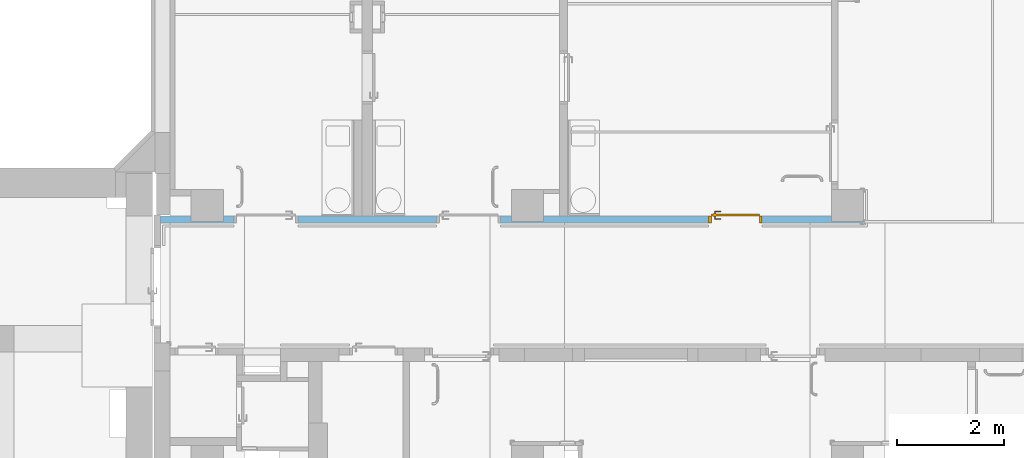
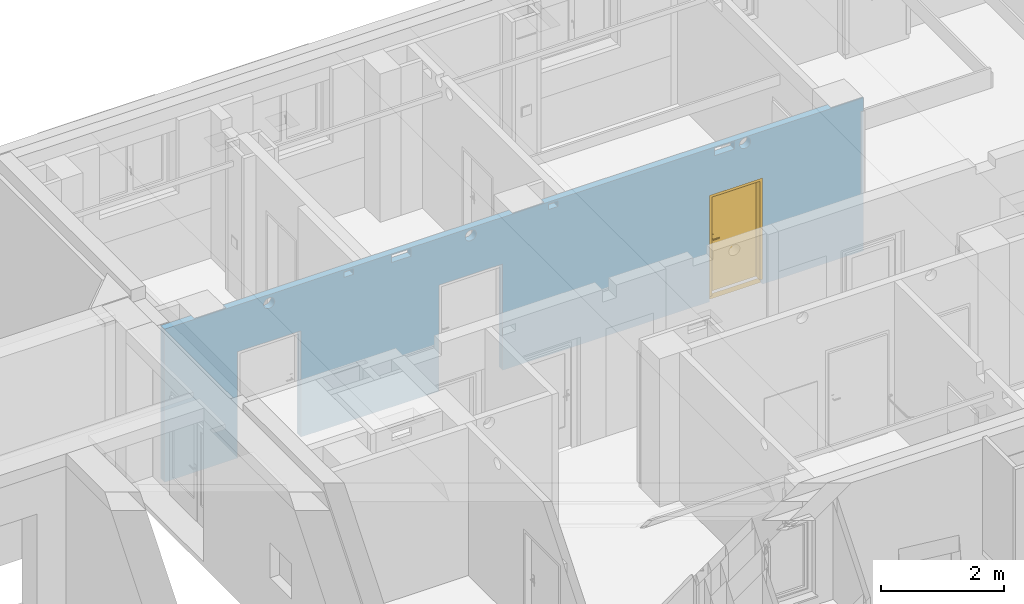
# One storey, part 60 of 84: 1 door, 13 openings, plus 1 element that does not belong to this part.
"""IFC4 building model written with IfcOpenShell, lengths in metres."""

import ifcopenshell
import ifcopenshell.guid

model = None  # the IFC model being written
_history = None  # IfcOwnerHistory: only IFC2X3 demands one
_inside = {}  # id of a spatial element -> (the spatial element, [elements in it])
_under = {}  # id of a project, library or spatial element -> (it, [spatial elements below it])
_declared = {}  # id of a project -> (the project, [libraries it declares])
_typed = {}  # id of a type object -> (the type object, [elements of that type])
_made_of = {}  # id of a material, layer set ... -> (it, [elements and type objects made of it])


def new_model(schema):
    """Start an empty IFC model of exactly this schema.

    Asked for "IFC4X3", IfcOpenShell would pick the latest addendum, in which some entities
    have other attributes; the version numbers below select the first issue.
    IFC2X3 requires an IfcOwnerHistory on every rooted entity: one is made here for all.
    """
    global model, _history
    if schema == "IFC4X3":
        model = ifcopenshell.file(schema_version=(4, 3, 0, 0))
    else:
        model = ifcopenshell.file(schema=schema)
    _inside.clear()
    _under.clear()
    _declared.clear()
    _typed.clear()
    _made_of.clear()
    _history = None
    if model.schema == "IFC2X3":
        org = make("IfcOrganization", Name="unknown")
        user = make(
            "IfcPersonAndOrganization",
            ThePerson=make("IfcPerson", FamilyName="unknown"),
            TheOrganization=org,
        )
        app = make(
            "IfcApplication",
            ApplicationDeveloper=org,
            Version="unknown",
            ApplicationFullName="unknown",
            ApplicationIdentifier="unknown",
        )
        _history = make(
            "IfcOwnerHistory",
            OwningUser=user,
            OwningApplication=app,
            ChangeAction="ADDED",
            CreationDate=0,
        )
    return model


def make(cls, **values):
    """One entity of the class cls with the attributes given. An attribute that is None is left unset."""
    return model.create_entity(
        cls, **{name: value for name, value in values.items() if value is not None}
    )


def entity(cls, *values):
    """Any entity or typed value of the class cls, its attributes in the order of the schema. None: left unset."""
    e = model.create_entity(cls)
    for i, value in enumerate(values):
        if value is not None:
            e[i] = value
    return e


def rooted(cls, **values):
    """An entity with a GlobalId (a new one), such as an element, a storey or a relation."""
    return make(cls, GlobalId=ifcopenshell.guid.new(), OwnerHistory=_history, **values)


def si_unit(unit_type, name, prefix=None):
    """IfcSIUnit, for example si_unit("LENGTHUNIT", "METRE", prefix="MILLI")."""
    return make("IfcSIUnit", UnitType=unit_type, Prefix=prefix, Name=name)


def converted_unit(unit_type, name, factor, base, dimensions=None, offset=None):
    """IfcConversionBasedUnit, such as the inch: factor (a typed value) times the base unit."""
    return make(
        "IfcConversionBasedUnit"
        if offset is None
        else "IfcConversionBasedUnitWithOffset",
        ConversionOffset=offset,
        Dimensions=None
        if dimensions is None
        else entity("IfcDimensionalExponents", *dimensions),
        UnitType=unit_type,
        Name=name,
        ConversionFactor=make(
            "IfcMeasureWithUnit", ValueComponent=factor, UnitComponent=base
        ),
    )


def derived_unit(unit_type, elements):
    """IfcDerivedUnit: a product of units, each with its exponent."""
    return make(
        "IfcDerivedUnit",
        Elements=[
            make("IfcDerivedUnitElement", Unit=unit, Exponent=power)
            for unit, power in elements
        ],
        UnitType=unit_type,
    )


def assignment(units):
    """IfcUnitAssignment: the units of a project."""
    return None if units is None else make("IfcUnitAssignment", Units=units)


def point(xyz):
    """IfcCartesianPoint."""
    return None if xyz is None else make("IfcCartesianPoint", Coordinates=xyz)


def direction(xyz):
    """IfcDirection."""
    return None if xyz is None else make("IfcDirection", DirectionRatios=xyz)


def frame(location, z_axis=None, x_axis=None):
    """IfcAxis2Placement3D, a coordinate frame: its origin and axes. An axis left out is left unset."""
    return make(
        "IfcAxis2Placement3D",
        Location=point(location),
        Axis=direction(z_axis),
        RefDirection=direction(x_axis),
    )


def frame_2d(location, x_axis=None):
    """IfcAxis2Placement2D, a coordinate frame in the plane: its origin and x axis."""
    return make(
        "IfcAxis2Placement2D", Location=point(location), RefDirection=direction(x_axis)
    )


def origin():
    """The frame at (0, 0, 0) with its axes left unset."""
    return frame((0.0, 0.0, 0.0))


def origin_with_axes():
    """The frame at (0, 0, 0) with the z axis (0, 0, 1) and the x axis (1, 0, 0) written out."""
    return frame((0.0, 0.0, 0.0), z_axis=(0.0, 0.0, 1.0), x_axis=(1.0, 0.0, 0.0))


def place(relative_to, where):
    """IfcLocalPlacement: puts the frame where relative to a parent placement (None: the world)."""
    return make(
        "IfcLocalPlacement", PlacementRelTo=relative_to, RelativePlacement=where
    )


def context(
    kind, dimensions, precision=None, world=None, true_north=None, identifier=None
):
    """IfcGeometricRepresentationContext, for example the 3D "Model" context."""
    return make(
        "IfcGeometricRepresentationContext",
        ContextIdentifier=identifier,
        ContextType=kind,
        CoordinateSpaceDimension=dimensions,
        Precision=precision,
        WorldCoordinateSystem=world,
        TrueNorth=true_north,
    )


def subcontext(parent, identifier, kind, view, scale=None):
    """IfcGeometricRepresentationSubContext, for example "Body" below "Model"."""
    return make(
        "IfcGeometricRepresentationSubContext",
        ContextIdentifier=identifier,
        ContextType=kind,
        ParentContext=parent,
        TargetScale=scale,
        TargetView=view,
    )


def project(units=None, contexts=None):
    """IfcProject with its units and contexts."""
    return rooted(
        "IfcProject",
        Name="project",
        RepresentationContexts=contexts,
        UnitsInContext=assignment(units),
    )


def spatial(cls, under=None, at=None, **own):
    """A site, building, storey or space (cls), placed at a placement, below another one or the project."""
    s = rooted(cls, ObjectPlacement=at, **own)
    if under is not None:
        _under.setdefault(under.id(), (under, []))[1].append(s)
    return s


def polyline(points):
    """IfcPolyline through the points."""
    return make("IfcPolyline", Points=[point(p) for p in points])


def profile(cls, at=None, kind="AREA", **sizes):
    """A parametric profile (cls). Its sizes go by their IFC names, for example OverallWidth=200.0."""
    return make(cls, ProfileType=kind, Position=at, **sizes)


def rectangle(**sizes):
    """IfcRectangleProfileDef."""
    return profile("IfcRectangleProfileDef", **sizes)


def outline(outer, holes=None, kind="AREA"):
    """IfcArbitraryClosedProfileDef: a profile drawn as a closed curve; with holes, ...WithVoids."""
    if holes is None:
        return make("IfcArbitraryClosedProfileDef", ProfileType=kind, OuterCurve=outer)
    return make(
        "IfcArbitraryProfileDefWithVoids",
        ProfileType=kind,
        OuterCurve=outer,
        InnerCurves=holes,
    )


def extrude(swept, where, along, depth):
    """IfcExtrudedAreaSolid: the profile swept, set in the frame where, extruded along a direction by depth."""
    return make(
        "IfcExtrudedAreaSolid",
        SweptArea=swept,
        Position=where,
        ExtrudedDirection=direction(along),
        Depth=depth,
    )


def faces_of(points, faces, orient=None, outer=None):
    """IfcFace entities. A face is a list of loops; a loop is a list of indices into points, from 0.

    orient and outer hold one flag for each loop. By default every Orientation is true, the
    first loop of a face is its IfcFaceOuterBound and the others are IfcFaceBound.
    """
    made = []
    for i, loops in enumerate(faces):
        bounds = []
        for j, loop in enumerate(loops):
            is_outer = j == 0 if outer is None else outer[i][j]
            bounds.append(
                make(
                    "IfcFaceOuterBound" if is_outer else "IfcFaceBound",
                    Bound=make("IfcPolyLoop", Polygon=[points[k] for k in loop]),
                    Orientation=True if orient is None else orient[i][j],
                )
            )
        made.append(make("IfcFace", Bounds=bounds))
    return made


def closed_shell(faces, orient=None, outer=None):
    """The faces of one IfcClosedShell. faceted_brep and surface_model build it on their shared points."""
    return ("IfcClosedShell", faces, orient, outer)


def open_shell(faces, orient=None, outer=None):
    """The faces of one IfcOpenShell. surface_model builds it on its shared points."""
    return ("IfcOpenShell", faces, orient, outer)


def surface_model(cls, points, shells):
    """IfcFaceBasedSurfaceModel or IfcShellBasedSurfaceModel (cls): surfaces that need not close."""
    shared = [point(p) for p in points]
    made = [make(c, CfsFaces=faces_of(shared, fs, o, b)) for c, fs, o, b in shells]
    if cls == "IfcFaceBasedSurfaceModel":
        return make(cls, FbsmFaces=made)
    return make(cls, SbsmBoundary=made)


def shape(context_of_items, identifier, shape_type, items):
    """IfcShapeRepresentation: the items that make up one representation, for example the "Body"."""
    return make(
        "IfcShapeRepresentation",
        ContextOfItems=context_of_items,
        RepresentationIdentifier=identifier,
        RepresentationType=shape_type,
        Items=items,
    )


def source(mapping_origin, context_of_items, identifier, shape_type, items):
    """IfcRepresentationMap: a shape defined once, which mapped items show again and again."""
    return make(
        "IfcRepresentationMap",
        MappingOrigin=mapping_origin,
        MappedRepresentation=shape(context_of_items, identifier, shape_type, items),
    )


def transform(
    local_origin,
    x_axis=None,
    y_axis=None,
    z_axis=None,
    scale=None,
    scale2=None,
    scale3=None,
    uniform=True,
):
    """IfcCartesianTransformationOperator3D, or its non-uniform kind. x_axis, y_axis, z_axis: its Axis1, 2, 3."""
    if uniform:
        return make(
            "IfcCartesianTransformationOperator3D",
            Axis1=direction(x_axis),
            Axis2=direction(y_axis),
            LocalOrigin=point(local_origin),
            Scale=scale,
            Axis3=direction(z_axis),
        )
    return make(
        "IfcCartesianTransformationOperator3DnonUniform",
        Axis1=direction(x_axis),
        Axis2=direction(y_axis),
        LocalOrigin=point(local_origin),
        Scale=scale,
        Axis3=direction(z_axis),
        Scale2=scale2,
        Scale3=scale3,
    )


def mapped(mapping_source, mapping_target):
    """IfcMappedItem: shows the shape of a source again, moved by a transform."""
    return make(
        "IfcMappedItem", MappingSource=mapping_source, MappingTarget=mapping_target
    )


def material(Name=None, Category=None):
    """IfcMaterial."""
    return make("IfcMaterial", Name=Name, Category=Category)


def layer(
    of_material, thickness, ventilated=None, Name=None, Category=None, Priority=None
):
    """IfcMaterialLayer: one layer of a wall or slab, of a material (None: an air gap)."""
    return make(
        "IfcMaterialLayer",
        Material=of_material,
        LayerThickness=thickness,
        IsVentilated=ventilated,
        Name=Name,
        Category=Category,
        Priority=Priority,
    )


def layer_set(layers, Name=None):
    """IfcMaterialLayerSet."""
    return make("IfcMaterialLayerSet", MaterialLayers=layers, LayerSetName=Name)


def layer_usage(for_layer_set, set_direction, sense, offset, extent=None):
    """IfcMaterialLayerSetUsage: how a layer set lies in its element."""
    return make(
        "IfcMaterialLayerSetUsage",
        ForLayerSet=for_layer_set,
        LayerSetDirection=set_direction,
        DirectionSense=sense,
        OffsetFromReferenceLine=offset,
        ReferenceExtent=extent,
    )


def made_of(thing, what):
    """Note that an element or type object is made of a material, layer set ...; save() writes the relation."""
    if what is not None:
        _made_of.setdefault(what.id(), (what, []))[1].append(thing)
    return thing


def type_object(cls, material=None, **own):
    """A type object (cls), such as IfcWallType, which elements share."""
    return made_of(rooted(cls, **own), material)


def element(
    cls,
    number,
    at=None,
    inside=None,
    cuts=None,
    type_object=None,
    material=None,
    context=None,
    identifier="Body",
    shape_type=None,
    held_by="IfcProductDefinitionShape",
    body=None,
    shapes=None,
    **own,
):
    """One element of the class cls, such as IfcWall. Its Tag is "e" and its number.

    at: its placement. inside: the storey or other place that contains it. cuts: it is an
    opening in that element (IfcRelVoidsElement). A single representation is given by context,
    identifier, shape_type and body (its items); several are given by shapes. held_by: the class
    of the entity that holds the representations. save() writes the other relations.
    """
    e = rooted(cls, Tag="e%d" % number, ObjectPlacement=at, **own)
    if body is not None:
        shapes = [shape(context, identifier, shape_type, body)]
    if shapes is not None:
        e.Representation = make(held_by, Representations=shapes)
    if inside is not None:
        _inside.setdefault(inside.id(), (inside, []))[1].append(e)
    if cuts is not None:
        rooted(
            "IfcRelVoidsElement", RelatingBuildingElement=cuts, RelatedOpeningElement=e
        )
    if type_object is not None:
        _typed.setdefault(type_object.id(), (type_object, []))[1].append(e)
    return made_of(e, material)


def fill(opening, filler):
    """IfcRelFillsElement: the door or window that sits in an opening."""
    return rooted(
        "IfcRelFillsElement",
        RelatingOpeningElement=opening,
        RelatedBuildingElement=filler,
    )


def aggregate(whole, parts):
    """IfcRelAggregates: a whole, such as a stair, and the parts it consists of."""
    return rooted("IfcRelAggregates", RelatingObject=whole, RelatedObjects=parts)


def save(model, path):
    """Write the relations noted so far, then the file.

    IfcRelAggregates (storeys below a building ...), IfcRelContainedInSpatialStructure (elements
    in a storey), IfcRelDefinesByType, IfcRelAssociatesMaterial and IfcRelDeclares: one each for
    every whole, place, type object, material and project.
    """
    for whole, parts in _under.values():
        aggregate(whole, parts)
    for where, things in _inside.values():
        rooted(
            "IfcRelContainedInSpatialStructure",
            RelatedElements=things,
            RelatingStructure=where,
        )
    for kind, things in _typed.values():
        rooted("IfcRelDefinesByType", RelatedObjects=things, RelatingType=kind)
    for what, things in _made_of.values():
        rooted("IfcRelAssociatesMaterial", RelatedObjects=things, RelatingMaterial=what)
    for by, libraries in _declared.values():
        rooted("IfcRelDeclares", RelatingContext=by, RelatedDefinitions=libraries)
    model.write(path)


model = new_model("IFC4")

# Units and contexts
model_context = context("Model", 3, precision=1e-05, world=origin())
body_context = subcontext(model_context, "Body", "Model", "MODEL_VIEW")
ifc_project = project(units=[si_unit("LENGTHUNIT", "METRE"), si_unit("AREAUNIT", "SQUARE_METRE"), si_unit("VOLUMEUNIT", "CUBIC_METRE"), si_unit("MASSUNIT", "GRAM", prefix="KILO"), converted_unit("PLANEANGLEUNIT", "DEGREE", entity("IfcPlaneAngleMeasure", 0.0174532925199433), si_unit("PLANEANGLEUNIT", "RADIAN"), dimensions=[0, 0, 0, 0, 0, 0, 0]), derived_unit("THERMALTRANSMITTANCEUNIT", [(si_unit("POWERUNIT", "WATT"), 1), (si_unit("THERMODYNAMICTEMPERATUREUNIT", "KELVIN"), -1), (si_unit("LENGTHUNIT", "METRE"), -2)]), derived_unit("VOLUMETRICFLOWRATEUNIT", [(si_unit("LENGTHUNIT", "METRE"), 3), (converted_unit("TIMEUNIT", "hour", entity("IfcTimeMeasure", 3600.0), si_unit("TIMEUNIT", "SECOND"), dimensions=[0, 0, 1, 0, 0, 0, 0]), -1), (si_unit("LENGTHUNIT", "METRE"), -1)])], contexts=[model_context])

# Site, building, storey
site_placement = place(None, origin())
site = spatial("IfcSite", under=ifc_project, at=site_placement, Name="3. ASŘ", CompositionType="ELEMENT")
building_placement = place(site_placement, origin())
building = spatial("IfcBuilding", under=site, at=building_placement, Name="Pavilon C", CompositionType="ELEMENT")
storey_placement = place(building_placement, frame((0.0, 0.0, -3.3)))
storey = spatial("IfcBuildingStorey", under=building, at=storey_placement, Name="Půdorys 1.PP", CompositionType="ELEMENT", Elevation=-3.3)

# Wall, openings, door
ifc_material = material(Name="SDK - 1 KCE + DVOJITÉ OPLÁŠTĚNÍ")
ifc_layer = layer(ifc_material, 0.125)
ifc_layer_set = layer_set([ifc_layer])
ifc_layer_usage = layer_usage(ifc_layer_set, "AXIS2", "POSITIVE", 0.0)
wall_placement = place(storey_placement, frame((-0.874999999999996, 9.875, -0.1), z_axis=(0.0, 0.0, 1.0), x_axis=(1.0, -2.76127423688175e-16, 0.0)))
wall = element("IfcWall", 1, at=wall_placement, inside=storey, material=ifc_layer_usage, Name="SDK - 1 KCE + DVOJITÉ OPLÁŠTĚNÍ", context=body_context, shape_type="SweptSolid", body=[
    extrude(rectangle(XDim=13.175, YDim=0.125, at=frame_2d((6.5875, 0.0625), x_axis=(1.0, 0.0))), origin_with_axes(), (0.0, 0.0, 1.0), 3.05),
])
opening_1_placement = place(wall_placement, frame((6.37500000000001, 0.124999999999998, 0.0), z_axis=(0.0, -1.0, 0.0), x_axis=(0.0, 0.0, 1.0)))
element("IfcOpeningElement", 2, at=opening_1_placement, cuts=wall, Name="Dveřní otvor", ObjectType="Opening", context=body_context, shape_type="SweptSolid", body=[
    extrude(outline(polyline([(0.0, 1.2), (2.12, 1.2), (2.12, 0.0), (0.0, 0.0), (0.0, 1.2)])), origin_with_axes(), (0.0, 0.0, 1.0), 0.125),
])
opening_2_placement = place(wall_placement, frame((1.37500000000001, 3.79675207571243e-16, 0.0), z_axis=(0.0, 1.0, 0.0), x_axis=(0.0, 0.0, 1.0)))
element("IfcOpeningElement", 3, at=opening_2_placement, cuts=wall, Name="Dveřní otvor", ObjectType="Opening", context=body_context, shape_type="SweptSolid", body=[
    extrude(outline(polyline([(0.0, 1.2), (2.12, 1.2), (2.12, 0.0), (0.0, 0.0), (0.0, 1.2)])), origin_with_axes(), (0.0, 0.0, 1.0), 0.125),
])
opening_3_placement = place(wall_placement, frame((11.275, 0.124999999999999, 0.0), z_axis=(0.0, -1.0, 0.0), x_axis=(0.0, 0.0, 1.0)))
opening_3 = element("IfcOpeningElement", 4, at=opening_3_placement, cuts=wall, Name="Dveřní otvor", ObjectType="Opening", context=body_context, shape_type="SweptSolid", body=[
    extrude(outline(polyline([(0.0, 1.0), (2.12, 1.0), (2.12, 0.0), (0.0, 0.0), (0.0, 1.0)])), origin_with_axes(), (0.0, 0.0, 1.0), 0.125),
])
opening_4_placement = place(wall_placement, frame((13.175, 0.125, 0.0), z_axis=(0.0, -1.0, 0.0), x_axis=(0.0, 0.0, 1.0)))
element("IfcOpeningElement", 5, at=opening_4_placement, cuts=wall, Name="Prostup stěnou", ObjectType="Opening", context=body_context, shape_type="SweptSolid", body=[
    extrude(outline(polyline([(0.0, 0.6), (3.05, 0.6), (3.05, 0.0), (0.0, 0.0), (0.0, 0.6)])), origin_with_axes(), (0.0, 0.0, 1.0), 0.1),
])
opening_5_placement = place(wall_placement, frame((1.17500000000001, 0.125, 0.0), z_axis=(0.0, -1.0, 0.0), x_axis=(0.0, 0.0, 1.0)))
element("IfcOpeningElement", 6, at=opening_5_placement, cuts=wall, Name="Stěnová nika", ObjectType="Opening", context=body_context, shape_type="SweptSolid", body=[
    extrude(outline(polyline([(0.0, 0.599999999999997), (3.05, 0.599999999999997), (3.05, 0.0), (0.0, 0.0), (0.0, 0.599999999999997)])), origin_with_axes(), (0.0, 0.0, 1.0), 0.100000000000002),
])
opening_6_placement = place(wall_placement, frame((7.17500000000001, 0.125, 0.0), z_axis=(0.0, -1.0, 0.0), x_axis=(0.0, 0.0, 1.0)))
element("IfcOpeningElement", 7, at=opening_6_placement, cuts=wall, Name="Stěnová nika", ObjectType="Opening", context=body_context, shape_type="SweptSolid", body=[
    extrude(outline(polyline([(0.0, 0.6), (3.05, 0.6), (3.05, 0.0), (0.0, 0.0), (0.0, 0.6)])), origin_with_axes(), (0.0, 0.0, 1.0), 0.1),
])
opening_7_placement = place(wall_placement, frame((3.3875, -8.83607755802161e-16, 2.9), z_axis=(0.0, 1.0, 0.0), x_axis=(0.0, 0.0, 1.0)))
element("IfcOpeningElement", 8, at=opening_7_placement, cuts=wall, Name="ZTI", ObjectType="Opening", context=body_context, shape_type="SweptSolid", body=[
    extrude(outline(polyline([(0.0, 0.175), (0.11, 0.175), (0.11, 0.0), (0.0, 0.0), (0.0, 0.175)])), origin_with_axes(), (0.0, 0.0, 1.0), 0.125),
])
opening_8_placement = place(wall_placement, frame((4.28228473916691, 1.18245625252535e-15, 2.88), z_axis=(0.0, 1.0, 0.0), x_axis=(0.0, 0.0, 1.0)))
element("IfcOpeningElement", 9, at=opening_8_placement, cuts=wall, Name="ZTI", ObjectType="Opening", context=body_context, shape_type="SweptSolid", body=[
    extrude(outline(polyline([(0.0, 0.37), (0.15, 0.37), (0.15, 0.0), (0.0, 0.0), (0.0, 0.37)])), origin_with_axes(), (0.0, 0.0, 1.0), 0.125),
])
opening_9_placement = place(wall_placement, frame((7.24, 1.80173143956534e-16, 2.9), z_axis=(0.0, 1.0, 0.0), x_axis=(0.0, 0.0, 1.0)))
element("IfcOpeningElement", 10, at=opening_9_placement, cuts=wall, Name="ZTI", ObjectType="Opening", context=body_context, shape_type="SweptSolid", body=[
    extrude(outline(polyline([(0.0, 0.175), (0.11, 0.175), (0.11, 0.0), (0.0, 0.0), (0.0, 0.175)])), origin_with_axes(), (0.0, 0.0, 1.0), 0.125),
])
opening_10_placement = place(wall_placement, frame((1.87, 5.16358282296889e-16, 2.775), z_axis=(0.0, 1.0, 0.0), x_axis=(0.0, 0.0, 1.0)))
element("IfcOpeningElement", 11, at=opening_10_placement, cuts=wall, Name="VZT", ObjectType="Opening", context=body_context, shape_type="SweptSolid", body=[
    extrude(outline(polyline([(0.105, 0.0), (0.0940245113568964, 0.000575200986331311), (0.0831692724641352, 0.00229450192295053), (0.0725532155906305, 0.0051390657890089), (0.062292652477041, 0.00907772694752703), (0.0525, 0.0140673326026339), (0.0432825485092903, 0.0200532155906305), (0.0347412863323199, 0.0269697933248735), (0.0269697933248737, 0.03474128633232), (0.0200532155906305, 0.0432825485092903), (0.014067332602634, 0.0525), (0.00907772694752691, 0.062292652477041), (0.0051390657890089, 0.0725532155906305), (0.00229450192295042, 0.0831692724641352), (0.000575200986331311, 0.0940245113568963), (0.0, 0.105), (0.000575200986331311, 0.115975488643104), (0.00229450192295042, 0.126830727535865), (0.0051390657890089, 0.137446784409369), (0.00907772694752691, 0.147707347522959), (0.014067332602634, 0.1575), (0.0200532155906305, 0.16671745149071), (0.0269697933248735, 0.17525871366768), (0.0347412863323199, 0.183030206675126), (0.0432825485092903, 0.18994678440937), (0.0525, 0.195932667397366), (0.062292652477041, 0.200922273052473), (0.0725532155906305, 0.204860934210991), (0.0831692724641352, 0.20770549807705), (0.0940245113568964, 0.209424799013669), (0.105, 0.21), (0.115975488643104, 0.209424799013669), (0.126830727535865, 0.20770549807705), (0.137446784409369, 0.204860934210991), (0.147707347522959, 0.200922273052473), (0.1575, 0.195932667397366), (0.16671745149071, 0.18994678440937), (0.17525871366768, 0.183030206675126), (0.183030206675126, 0.17525871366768), (0.189946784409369, 0.16671745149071), (0.195932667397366, 0.1575), (0.200922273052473, 0.147707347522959), (0.204860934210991, 0.137446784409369), (0.20770549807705, 0.126830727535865), (0.209424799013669, 0.115975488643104), (0.21, 0.105), (0.209424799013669, 0.0940245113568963), (0.20770549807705, 0.0831692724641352), (0.204860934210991, 0.0725532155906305), (0.200922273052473, 0.062292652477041), (0.195932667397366, 0.0525), (0.18994678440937, 0.0432825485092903), (0.183030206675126, 0.03474128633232), (0.17525871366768, 0.0269697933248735), (0.16671745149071, 0.0200532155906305), (0.1575, 0.0140673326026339), (0.147707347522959, 0.00907772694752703), (0.13744678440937, 0.0051390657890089), (0.126830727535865, 0.00229450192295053), (0.115975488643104, 0.000575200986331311), (0.105, 0.0)])), origin_with_axes(), (0.0, 0.0, 1.0), 0.125),
])
opening_11_placement = place(wall_placement, frame((5.67000000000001, -2.07233631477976e-15, 2.795), z_axis=(0.0, 1.0, 0.0), x_axis=(0.0, 0.0, 1.0)))
element("IfcOpeningElement", 12, at=opening_11_placement, cuts=wall, Name="VZT", ObjectType="Opening", context=body_context, shape_type="SweptSolid", body=[
    extrude(outline(polyline([(0.105, 0.0), (0.0940245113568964, 0.000575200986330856), (0.0831692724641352, 0.00229450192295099), (0.0725532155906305, 0.00513906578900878), (0.062292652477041, 0.00907772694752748), (0.0525, 0.0140673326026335), (0.0432825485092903, 0.0200532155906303), (0.0347412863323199, 0.0269697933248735), (0.0269697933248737, 0.0347412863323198), (0.0200532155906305, 0.0432825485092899), (0.014067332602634, 0.0525), (0.00907772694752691, 0.062292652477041), (0.0051390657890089, 0.0725532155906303), (0.00229450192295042, 0.0831692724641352), (0.000575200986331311, 0.0940245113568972), (0.0, 0.105), (0.000575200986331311, 0.115975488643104), (0.00229450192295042, 0.126830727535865), (0.0051390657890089, 0.13744678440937), (0.00907772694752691, 0.147707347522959), (0.014067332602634, 0.1575), (0.0200532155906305, 0.16671745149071), (0.0269697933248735, 0.17525871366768), (0.0347412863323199, 0.183030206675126), (0.0432825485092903, 0.18994678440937), (0.0525, 0.195932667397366), (0.062292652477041, 0.200922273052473), (0.0725532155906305, 0.204860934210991), (0.0831692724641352, 0.207705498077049), (0.0940245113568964, 0.209424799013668), (0.105, 0.21), (0.115975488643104, 0.209424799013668), (0.126830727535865, 0.207705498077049), (0.137446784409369, 0.204860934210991), (0.147707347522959, 0.200922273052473), (0.1575, 0.195932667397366), (0.16671745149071, 0.18994678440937), (0.17525871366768, 0.183030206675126), (0.183030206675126, 0.17525871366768), (0.189946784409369, 0.16671745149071), (0.195932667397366, 0.1575), (0.200922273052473, 0.147707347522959), (0.204860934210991, 0.13744678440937), (0.20770549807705, 0.126830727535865), (0.209424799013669, 0.115975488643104), (0.21, 0.105), (0.209424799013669, 0.0940245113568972), (0.20770549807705, 0.0831692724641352), (0.204860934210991, 0.0725532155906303), (0.200922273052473, 0.062292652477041), (0.195932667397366, 0.0525), (0.18994678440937, 0.0432825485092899), (0.183030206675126, 0.0347412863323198), (0.17525871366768, 0.0269697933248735), (0.16671745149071, 0.0200532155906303), (0.1575, 0.0140673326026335), (0.147707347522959, 0.00907772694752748), (0.13744678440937, 0.00513906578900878), (0.126830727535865, 0.00229450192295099), (0.115975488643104, 0.000575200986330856), (0.105, 0.0)])), origin_with_axes(), (0.0, 0.0, 1.0), 0.125),
])
opening_12_placement = place(wall_placement, frame((10.3703699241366, -7.74435277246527e-16, 2.88), z_axis=(0.0, 1.0, 0.0), x_axis=(0.0, 0.0, 1.0)))
element("IfcOpeningElement", 13, at=opening_12_placement, cuts=wall, Name="ZTI", ObjectType="Opening", context=body_context, shape_type="SweptSolid", body=[
    extrude(outline(polyline([(0.0, 0.37), (0.15, 0.37), (0.15, 0.0), (0.0, 0.0), (0.0, 0.37)])), origin_with_axes(), (0.0, 0.0, 1.0), 0.125),
])
opening_13_placement = place(wall_placement, frame((10.8403699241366, -6.44655388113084e-16, 2.825), z_axis=(0.0, 1.0, 0.0), x_axis=(0.0, 0.0, 1.0)))
element("IfcOpeningElement", 14, at=opening_13_placement, cuts=wall, Name="VZT", ObjectType="Opening", context=body_context, shape_type="SweptSolid", body=[
    extrude(outline(polyline([(0.105, 0.0), (0.0940245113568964, 0.000575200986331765), (0.0831692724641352, 0.0022945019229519), (0.0725532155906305, 0.00513906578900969), (0.062292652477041, 0.00907772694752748), (0.0525, 0.0140673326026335), (0.0432825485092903, 0.0200532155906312), (0.0347412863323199, 0.0269697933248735), (0.0269697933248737, 0.0347412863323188), (0.0200532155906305, 0.0432825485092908), (0.014067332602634, 0.0524999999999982), (0.00907772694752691, 0.062292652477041), (0.0051390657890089, 0.0725532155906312), (0.00229450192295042, 0.0831692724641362), (0.000575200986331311, 0.0940245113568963), (0.0, 0.105), (0.000575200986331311, 0.115975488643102), (0.00229450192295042, 0.126830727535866), (0.0051390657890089, 0.137446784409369), (0.00907772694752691, 0.147707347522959), (0.014067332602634, 0.1575), (0.0200532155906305, 0.166717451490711), (0.0269697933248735, 0.175258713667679), (0.0347412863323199, 0.183030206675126), (0.0432825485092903, 0.189946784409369), (0.0525, 0.195932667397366), (0.062292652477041, 0.200922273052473), (0.0725532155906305, 0.20486093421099), (0.0831692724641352, 0.20770549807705), (0.0940245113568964, 0.209424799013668), (0.105, 0.21), (0.115975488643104, 0.209424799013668), (0.126830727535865, 0.20770549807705), (0.137446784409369, 0.20486093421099), (0.147707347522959, 0.200922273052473), (0.1575, 0.195932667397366), (0.16671745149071, 0.189946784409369), (0.17525871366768, 0.183030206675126), (0.183030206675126, 0.175258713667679), (0.189946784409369, 0.166717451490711), (0.195932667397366, 0.1575), (0.200922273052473, 0.147707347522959), (0.204860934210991, 0.137446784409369), (0.20770549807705, 0.126830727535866), (0.209424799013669, 0.115975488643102), (0.21, 0.105), (0.209424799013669, 0.0940245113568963), (0.20770549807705, 0.0831692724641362), (0.204860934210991, 0.0725532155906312), (0.200922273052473, 0.062292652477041), (0.195932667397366, 0.0524999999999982), (0.18994678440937, 0.0432825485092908), (0.183030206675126, 0.0347412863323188), (0.17525871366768, 0.0269697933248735), (0.16671745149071, 0.0200532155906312), (0.1575, 0.0140673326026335), (0.147707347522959, 0.00907772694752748), (0.13744678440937, 0.00513906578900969), (0.126830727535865, 0.0022945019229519), (0.115975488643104, 0.000575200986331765), (0.105, 0.0)])), origin_with_axes(), (0.0, 0.0, 1.0), 0.125),
])
door_type = type_object("IfcDoorType", Name="I.D006", OperationType="NOTDEFINED", ParameterTakesPrecedence=False, PredefinedType="DOOR")
shared_shape = source(origin_with_axes(), body_context, "Body", "SurfaceModel", [
    surface_model("IfcShellBasedSurfaceModel", [(0.0, 0.0625, 0.0), (1.0, 0.0625, 0.0), (1.0, 0.0625, 0.1), (0.0, 0.0625, 0.1)], [open_shell([[[0, 1, 2, 3]]], orient=[[False]])]),
    surface_model("IfcShellBasedSurfaceModel", [(0.0, 0.125, 2.12), (0.0, 0.125, 0.101), (0.05, 0.125, 0.101), (0.05, 0.125, 2.12), (0.0, 0.0, 0.101), (0.0, 2.41584530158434e-16, 2.12), (0.05, 2.41584530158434e-16, 2.12), (0.05, 0.0, 0.101)], [closed_shell([[[0, 1, 2, 3]], [[4, 5, 6, 7]], [[1, 0, 5, 4]], [[2, 1, 4, 7]], [[3, 2, 7, 6]], [[0, 3, 6, 5]]], orient=[[False], [False], [False], [False], [False], [False]])]),
    surface_model("IfcShellBasedSurfaceModel", [(0.95, 0.125, 2.12), (0.95, 0.125, 0.101), (1.0, 0.125, 0.101), (1.0, 0.125, 2.12), (0.95, 0.0, 0.101), (0.95, 2.41584530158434e-16, 2.12), (1.0, 2.41584530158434e-16, 2.12), (1.0, 0.0, 0.101)], [closed_shell([[[0, 1, 2, 3]], [[4, 5, 6, 7]], [[1, 0, 5, 4]], [[2, 1, 4, 7]], [[3, 2, 7, 6]], [[0, 3, 6, 5]]], orient=[[False], [False], [False], [False], [False], [False]])]),
    surface_model("IfcShellBasedSurfaceModel", [(0.05, 0.125, 2.12), (0.05, 0.125, 2.07), (0.95, 0.125, 2.07), (0.95, 0.125, 2.12), (0.05, 2.41584530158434e-16, 2.07), (0.05, 2.41584530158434e-16, 2.12), (0.95, 2.41584530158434e-16, 2.12), (0.95, 2.41584530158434e-16, 2.07)], [closed_shell([[[0, 1, 2, 3]], [[4, 5, 6, 7]], [[1, 0, 5, 4]], [[2, 1, 4, 7]], [[3, 2, 7, 6]], [[0, 3, 6, 5]]], orient=[[False], [False], [False], [False], [False], [False]])]),
    surface_model("IfcShellBasedSurfaceModel", [(0.05, 0.165, 2.07), (0.05, 0.165, 0.101), (0.95, 0.165, 0.101), (0.95, 0.165, 2.07), (0.05, 0.125, 0.101), (0.05, 0.125, 2.07), (0.95, 0.125, 2.07), (0.95, 0.125, 0.101)], [closed_shell([[[0, 1, 2, 3]], [[4, 5, 6, 7]], [[1, 0, 5, 4]], [[2, 1, 4, 7]], [[3, 2, 7, 6]], [[0, 3, 6, 5]]], orient=[[False], [False], [False], [False], [False], [False]])]),
    surface_model("IfcShellBasedSurfaceModel", [(0.09, 0.125, 1.226), (0.09, 0.125, 1.011), (0.14, 0.125, 1.011), (0.14, 0.125, 1.226), (0.09, 0.115, 1.011), (0.09, 0.115, 1.226), (0.14, 0.115, 1.226), (0.14, 0.115, 1.011)], [closed_shell([[[0, 1, 2, 3]], [[4, 5, 6, 7]], [[1, 0, 5, 4]], [[2, 1, 4, 7]], [[3, 2, 7, 6]], [[0, 3, 6, 5]]], orient=[[False], [False], [False], [False], [False], [False]])]),
    surface_model("IfcShellBasedSurfaceModel", [(0.115, 0.115, 1.161), (0.11, 0.115, 1.15966025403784), (0.106339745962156, 0.115, 1.156), (0.105, 0.115, 1.151), (0.106339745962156, 0.115, 1.146), (0.11, 0.115, 1.14233974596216), (0.115, 0.115, 1.141), (0.12, 0.115, 1.14233974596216), (0.123660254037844, 0.115, 1.146), (0.125, 0.115, 1.151), (0.123660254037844, 0.115, 1.156), (0.12, 0.115, 1.15966025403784), (0.115, 0.0750000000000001, 1.161), (0.11, 0.0700000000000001, 1.15966025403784), (0.106339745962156, 0.0663397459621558, 1.156), (0.105, 0.0650000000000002, 1.151), (0.106339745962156, 0.0663397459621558, 1.146), (0.11, 0.0700000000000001, 1.14233974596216), (0.115, 0.0750000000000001, 1.141), (0.12, 0.0800000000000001, 1.14233974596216), (0.123660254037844, 0.0836602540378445, 1.146), (0.125, 0.0850000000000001, 1.151), (0.123660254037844, 0.0836602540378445, 1.156), (0.12, 0.0800000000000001, 1.15966025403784), (0.23, 0.0750000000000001, 1.161), (0.23, 0.0700000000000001, 1.15966025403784), (0.23, 0.0663397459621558, 1.156), (0.23, 0.0650000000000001, 1.151), (0.23, 0.0663397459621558, 1.146), (0.23, 0.0700000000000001, 1.14233974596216), (0.23, 0.0750000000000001, 1.141), (0.23, 0.0800000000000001, 1.14233974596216), (0.23, 0.0836602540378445, 1.146), (0.23, 0.0850000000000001, 1.151), (0.23, 0.0836602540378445, 1.156), (0.23, 0.0800000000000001, 1.15966025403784)], [open_shell([[[0, 1, 2, 3, 4, 5, 6, 7, 8, 9, 10, 11]], [[0, 12, 13, 1]], [[1, 13, 14, 2]], [[2, 14, 15, 3]], [[3, 15, 16, 4]], [[4, 16, 17, 5]], [[5, 17, 18, 6]], [[6, 18, 19, 7]], [[7, 19, 20, 8]], [[8, 20, 21, 9]], [[9, 21, 22, 10]], [[10, 22, 23, 11]], [[11, 23, 12, 0]], [[12, 24, 25, 13]], [[13, 25, 26, 14]], [[14, 26, 27, 15]], [[15, 27, 28, 16]], [[16, 28, 29, 17]], [[17, 29, 30, 18]], [[18, 30, 31, 19]], [[19, 31, 32, 20]], [[20, 32, 33, 21]], [[21, 33, 34, 22]], [[22, 34, 35, 23]], [[23, 35, 24, 12]]], orient=[[False], [False], [False], [False], [False], [False], [False], [False], [False], [False], [False], [False], [False], [False], [False], [False], [False], [False], [False], [False], [False], [False], [False], [False], [False]])]),
    surface_model("IfcShellBasedSurfaceModel", [(0.09, 0.165, 1.226), (0.14, 0.165, 1.226), (0.14, 0.165, 1.011), (0.09, 0.165, 1.011), (0.09, 0.175, 1.011), (0.14, 0.175, 1.011), (0.14, 0.175, 1.226), (0.09, 0.175, 1.226)], [closed_shell([[[0, 1, 2, 3]], [[4, 5, 6, 7]], [[3, 4, 7, 0]], [[2, 5, 4, 3]], [[1, 6, 5, 2]], [[0, 7, 6, 1]]], orient=[[False], [False], [False], [False], [False], [False]])]),
    surface_model("IfcShellBasedSurfaceModel", [(0.115, 0.175, 1.161), (0.12, 0.175, 1.15966025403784), (0.123660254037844, 0.175, 1.156), (0.125, 0.175, 1.151), (0.123660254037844, 0.175, 1.146), (0.12, 0.175, 1.14233974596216), (0.115, 0.175, 1.141), (0.11, 0.175, 1.14233974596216), (0.106339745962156, 0.175, 1.146), (0.105, 0.175, 1.151), (0.106339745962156, 0.175, 1.156), (0.11, 0.175, 1.15966025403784), (0.11, 0.22, 1.15966025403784), (0.115, 0.215, 1.161), (0.106339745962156, 0.223660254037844, 1.156), (0.105, 0.225, 1.151), (0.106339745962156, 0.223660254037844, 1.146), (0.11, 0.22, 1.14233974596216), (0.115, 0.215, 1.141), (0.12, 0.21, 1.14233974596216), (0.123660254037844, 0.206339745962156, 1.146), (0.125, 0.205, 1.151), (0.123660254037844, 0.206339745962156, 1.156), (0.12, 0.21, 1.15966025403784), (0.23, 0.22, 1.15966025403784), (0.23, 0.215, 1.161), (0.23, 0.223660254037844, 1.156), (0.23, 0.225, 1.151), (0.23, 0.223660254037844, 1.146), (0.23, 0.22, 1.14233974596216), (0.23, 0.215, 1.141), (0.23, 0.21, 1.14233974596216), (0.23, 0.206339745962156, 1.146), (0.23, 0.205, 1.151), (0.23, 0.206339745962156, 1.156), (0.23, 0.21, 1.15966025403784)], [open_shell([[[0, 1, 2, 3, 4, 5, 6, 7, 8, 9, 10, 11]], [[0, 11, 12, 13]], [[11, 10, 14, 12]], [[10, 9, 15, 14]], [[9, 8, 16, 15]], [[8, 7, 17, 16]], [[7, 6, 18, 17]], [[6, 5, 19, 18]], [[5, 4, 20, 19]], [[4, 3, 21, 20]], [[3, 2, 22, 21]], [[2, 1, 23, 22]], [[1, 0, 13, 23]], [[13, 12, 24, 25]], [[12, 14, 26, 24]], [[14, 15, 27, 26]], [[15, 16, 28, 27]], [[16, 17, 29, 28]], [[17, 18, 30, 29]], [[18, 19, 31, 30]], [[19, 20, 32, 31]], [[20, 21, 33, 32]], [[21, 22, 34, 33]], [[22, 23, 35, 34]], [[23, 13, 25, 35]]], orient=[[False], [False], [False], [False], [False], [False], [False], [False], [False], [False], [False], [False], [False], [False], [False], [False], [False], [False], [False], [False], [False], [False], [False], [False], [False]])]),
])
door_placement = place(opening_3_placement, frame((0.0, 0.999999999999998, 0.125000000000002), z_axis=(1.0, 0.0, 0.0), x_axis=(0.0, -1.0, -3.11980638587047e-17)))
door = element("IfcDoor", 15, at=door_placement, inside=storey, type_object=door_type, Name="I.D006", OverallHeight=2.12, OverallWidth=1.0, context=body_context, shape_type="MappedRepresentation", body=[
    mapped(shared_shape, transform((0.0, 0.0, 0.0), x_axis=(1.0, 0.0, 0.0), y_axis=(0.0, 1.0, 0.0), z_axis=(0.0, 0.0, 1.0), scale=1.0)),
])
fill(opening_3, door)

save(model, "model.ifc")
